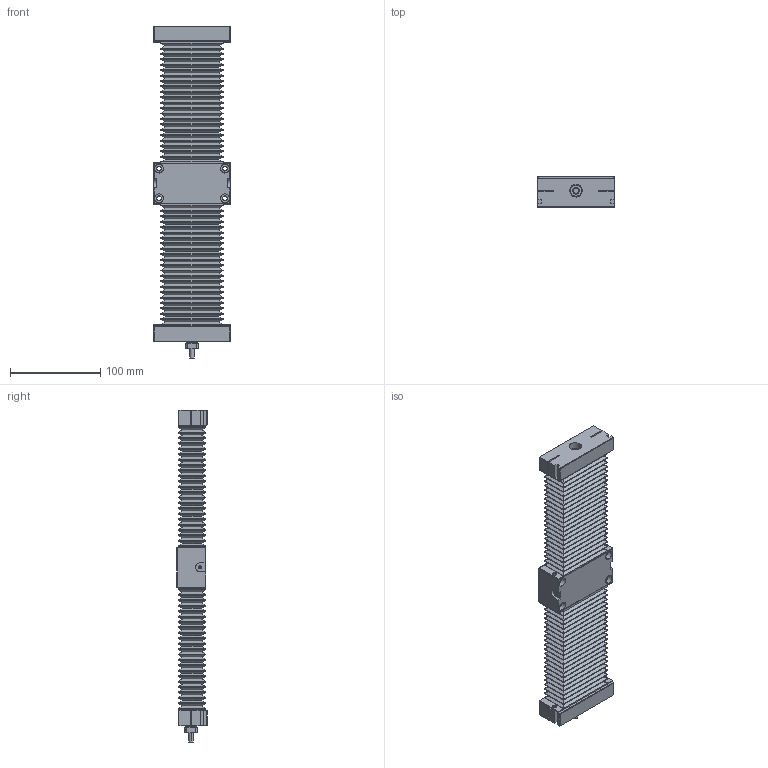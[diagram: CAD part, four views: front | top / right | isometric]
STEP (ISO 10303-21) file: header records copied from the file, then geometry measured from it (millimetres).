
FILE_DESCRIPTION (( 'STEP AP214' ), '1' );
FILE_NAME ('TKC0802B-150H0C-Ä£×é.step', '2025-08-25T08:36:00', ( '' ), ( '' ), 'SwSTEP 2.0', 'SolidWorks 2024', '' );
FILE_SCHEMA (( 'AUTOMOTIVE_DESIGN' ));
Length unit declared in the file: millimetre
Products named in the file (4): TKC08-02; TKC0802B-150H0C-模组; TKC08-150-03; TKC08-150-01
Assembly tree (4 placements, depth 2):
  TKC0802B-150H0C-模组
    TKC08-02
    TKC08-150-01
    TKC08-150-03  x2
Bounding box: 85 x 34 x 368 mm (x, y, z)
Volume: 568146.2 mm3; surface area: 219869.7 mm2
Topology: 10 solids, 16 shells, 1246 faces, 2830 edges, 1658 vertices
Faces by surface type: plane 857, cylinder 308, cone 42, torus 28, bspline 11
Entity records: 38342 total; most frequent: CARTESIAN_POINT 16292, ORIENTED_EDGE 4404, DIRECTION 4401, EDGE_CURVE 2202, AXIS2_PLACEMENT_3D 1468, LINE 1465, VECTOR 1465, VERTEX_POINT 1346
